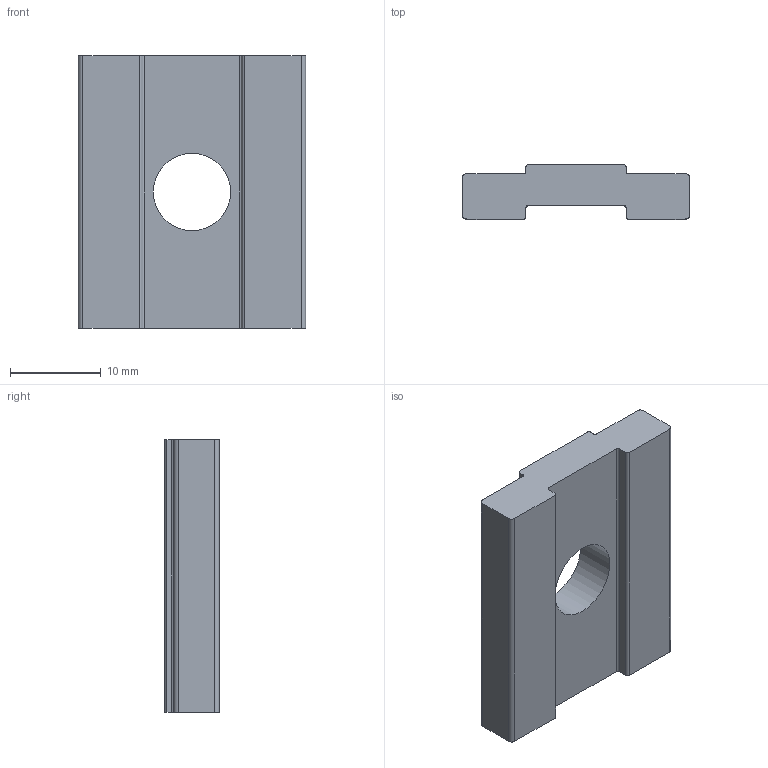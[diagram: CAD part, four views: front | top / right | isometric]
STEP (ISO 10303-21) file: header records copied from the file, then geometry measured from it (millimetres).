
FILE_DESCRIPTION(/* description */ ('SPACER FOR 300-2165'),/* implementation_level */ '2;1');
FILE_NAME(/* name */ 'X:\Carryline\Katalog\STEP-Carryline Standarddelar\Serie 300\300-2170.stp',/* time_stamp */ '2018-03-06T08:46:45+01:00',/* author */ ('mathias'),/* organization */ ('CARRYLINE'),/* preprocessor_version */ 'ST-DEVELOPER v17',/* originating_system */ 'Autodesk Inventor 2018',/* authorisation */ '');
FILE_SCHEMA (('AUTOMOTIVE_DESIGN { 1 0 10303 214 3 1 1 }'));
Length unit declared in the file: millimetre
Products named in the file (1): 300-2170
Bounding box: 25 x 6 x 30 mm (x, y, z)
Volume: 3323.2 mm3; surface area: 2143.7 mm2
Topology: 1 solids, 1 shells, 27 faces, 76 edges, 51 vertices
Faces by surface type: plane 14, cylinder 13
Full cylindrical faces by diameter (mm): 8.5 x1
Entity records: 928 total; most frequent: DIRECTION 159, CARTESIAN_POINT 155, ORIENTED_EDGE 152, EDGE_CURVE 76, AXIS2_PLACEMENT_3D 55, VERTEX_POINT 51, LINE 49, VECTOR 49
